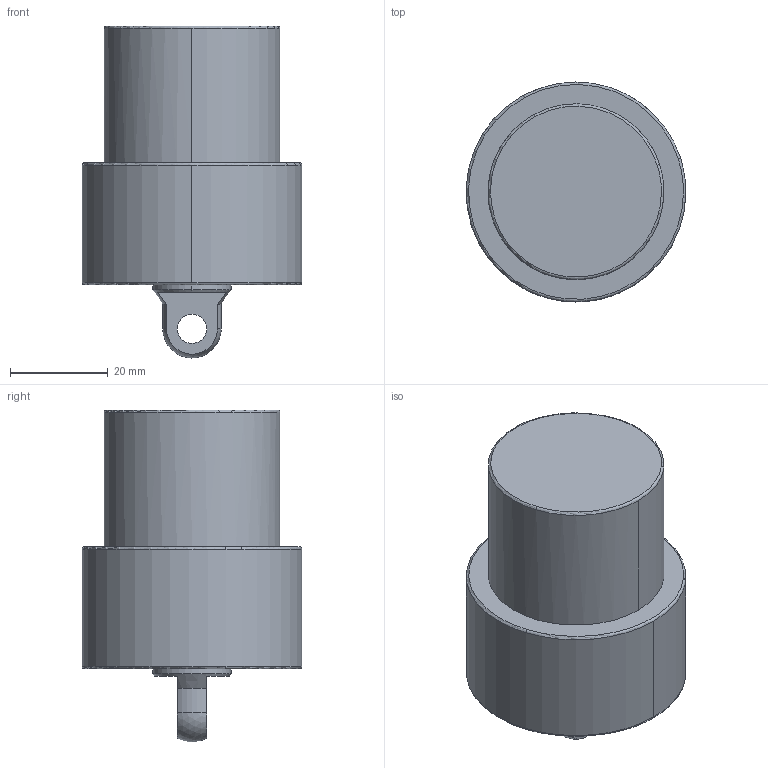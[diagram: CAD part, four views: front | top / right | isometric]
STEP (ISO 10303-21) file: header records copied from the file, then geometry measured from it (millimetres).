
FILE_DESCRIPTION((' '),'2;1');
FILE_NAME( 'TLLU-036GP-020.STEP.stp', '2025-10-24T16:37:08', (' '), ('--- Datakit www.datakit.com---'), ' Datakit CrossCadWare V2024.1 Dec 21 2023', 'Mastercam 2025', ' ');
FILE_SCHEMA(('AUTOMOTIVE_DESIGN { 1 0 10303 214 1 1 1 1 }'));
Length unit declared in the file: millimetre
Products named in the file (1): TLLU-036GP-020
Bounding box: 44.99 x 45 x 67.97 mm (x, y, z)
Volume: 68613.5 mm3; surface area: 10870.8 mm2
Topology: 1 solids, 1 shells, 56 faces, 159 edges, 105 vertices
Faces by surface type: cylinder 22, cone 18, plane 9, torus 6, sphere 1
Entity records: 1872 total; most frequent: DIRECTION 364, CARTESIAN_POINT 325, ORIENTED_EDGE 302, AXIS2_PLACEMENT_3D 160, EDGE_CURVE 151, VERTEX_POINT 105, CIRCLE 103, EDGE_LOOP 66
